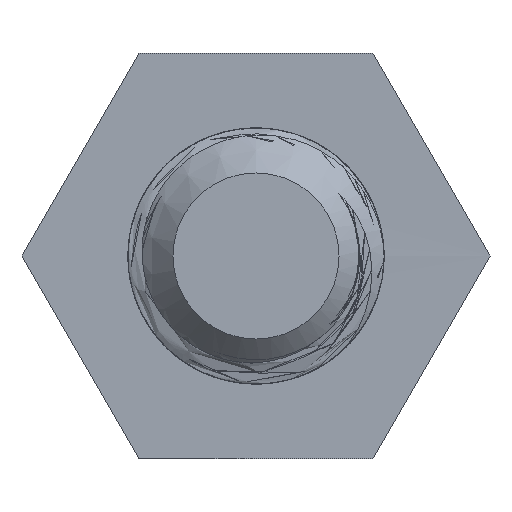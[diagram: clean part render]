
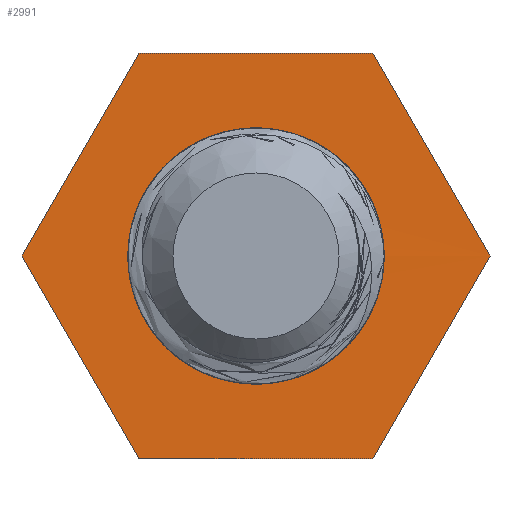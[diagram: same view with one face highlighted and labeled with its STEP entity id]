
A CAD part, front view. The second image highlights one B-rep face of the part: STEP entity #2991.
In plain terms, the highlighted planar face has unit normal (0, -1, 0).
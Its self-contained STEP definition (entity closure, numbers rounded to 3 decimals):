
#18 = CARTESIAN_POINT ( 'NONE',  ( -0.592, 0., -1.303 ) ) ;
#35 = ORIENTED_EDGE ( 'NONE', *, *, #529, .F. ) ;
#52 = CARTESIAN_POINT ( 'NONE',  ( 0.615, 0., 1.292 ) ) ;
#86 = DIRECTION ( 'NONE',  ( -0.5, 0., -0.866 ) ) ;
#95 = CARTESIAN_POINT ( 'NONE',  ( 1.299, 0., -2.25 ) ) ;
#107 = LINE ( 'NONE', #659, #1240 ) ;
#194 = CARTESIAN_POINT ( 'NONE',  ( 1.411, 0., -0.207 ) ) ;
#290 = CARTESIAN_POINT ( 'NONE',  ( 1.068, 0., -0.946 ) ) ;
#322 = CARTESIAN_POINT ( 'NONE',  ( 0.196, 0., -1.418 ) ) ;
#338 = ORIENTED_EDGE ( 'NONE', *, *, #2859, .T. ) ;
#339 = CARTESIAN_POINT ( 'NONE',  ( -0.775, 0., 1.204 ) ) ;
#342 = DIRECTION ( 'NONE',  ( 1., 0., 0. ) ) ;
#378 = CARTESIAN_POINT ( 'NONE',  ( 0., 0., 0. ) ) ;
#397 = VERTEX_POINT ( 'NONE', #680 ) ;
#510 = VECTOR ( 'NONE', #3664, 1000. ) ;
#529 = EDGE_CURVE ( 'NONE', #2973, #3035, #107, .T. ) ;
#572 = VECTOR ( 'NONE', #1546, 1000. ) ;
#575 = CARTESIAN_POINT ( 'NONE',  ( -0.128, 0., -1.426 ) ) ;
#627 = CARTESIAN_POINT ( 'NONE',  ( 1.333, 0., -0.506 ) ) ;
#630 = DIRECTION ( 'NONE',  ( 0.5, 0., -0.866 ) ) ;
#650 = LINE ( 'NONE', #2998, #2545 ) ;
#659 = CARTESIAN_POINT ( 'NONE',  ( 2.598, 0., 0. ) ) ;
#680 = CARTESIAN_POINT ( 'NONE',  ( -1.299, 0., -2.25 ) ) ;
#744 = ORIENTED_EDGE ( 'NONE', *, *, #3382, .F. ) ;
#828 = CARTESIAN_POINT ( 'NONE',  ( -2.598, 0., 0. ) ) ;
#857 = CARTESIAN_POINT ( 'NONE',  ( 1.422, 0., 0.162 ) ) ;
#873 = CARTESIAN_POINT ( 'NONE',  ( -0.287, 0., -1.403 ) ) ;
#879 = CARTESIAN_POINT ( 'NONE',  ( 0.916, 0., -1.089 ) ) ;
#906 = CARTESIAN_POINT ( 'NONE',  ( -1.4, 0., 0.298 ) ) ;
#926 = CARTESIAN_POINT ( 'NONE',  ( 1.21, 0., 0.766 ) ) ;
#945 = CARTESIAN_POINT ( 'NONE',  ( 2.598, 0., 0. ) ) ;
#986 = CARTESIAN_POINT ( 'NONE',  ( 1.422, -0.004, 0. ) ) ;
#989 = AXIS2_PLACEMENT_3D ( 'NONE', #378, #3260, #1840 ) ;
#1114 = CARTESIAN_POINT ( 'NONE',  ( 1.299, 0., 2.25 ) ) ;
#1139 = VERTEX_POINT ( 'NONE', #1114 ) ;
#1141 = CARTESIAN_POINT ( 'NONE',  ( 1.289, 0., 0.623 ) ) ;
#1175 = CARTESIAN_POINT ( 'NONE',  ( 0.151, 0., 1.424 ) ) ;
#1197 = LINE ( 'NONE', #2319, #1393 ) ;
#1209 = CARTESIAN_POINT ( 'NONE',  ( 0.886, 0., 1.124 ) ) ;
#1240 = VECTOR ( 'NONE', #86, 1000. ) ;
#1255 = LINE ( 'NONE', #2733, #2851 ) ;
#1293 = EDGE_LOOP ( 'NONE', ( #3632, #338 ) ) ;
#1393 = VECTOR ( 'NONE', #1769, 1000. ) ;
#1424 = CARTESIAN_POINT ( 'NONE',  ( -0.486, 0., 1.346 ) ) ;
#1443 = CARTESIAN_POINT ( 'NONE',  ( 0.463, 0., 1.355 ) ) ;
#1476 = CARTESIAN_POINT ( 'NONE',  ( -1.278, 0., -0.646 ) ) ;
#1493 = ORIENTED_EDGE ( 'NONE', *, *, #3494, .F. ) ;
#1494 = CARTESIAN_POINT ( 'NONE',  ( -0.737, 0., -1.227 ) ) ;
#1546 = DIRECTION ( 'NONE',  ( -1., 0., 0. ) ) ;
#1553 = VERTEX_POINT ( 'NONE', #879 ) ;
#1589 = ORIENTED_EDGE ( 'NONE', *, *, #1630, .F. ) ;
#1595 = ORIENTED_EDGE ( 'NONE', *, *, #2318, .F. ) ;
#1630 = EDGE_CURVE ( 'NONE', #2443, #2007, #1197, .T. ) ;
#1697 = LINE ( 'NONE', #1980, #510 ) ;
#1764 = CARTESIAN_POINT ( 'NONE',  ( 0.916, 0., -1.089 ) ) ;
#1769 = DIRECTION ( 'NONE',  ( 0.5, 0., 0.866 ) ) ;
#1799 = CARTESIAN_POINT ( 'NONE',  ( -1.357, 0., 0.454 ) ) ;
#1819 = FACE_BOUND ( 'NONE', #1293, .T. ) ;
#1840 = DIRECTION ( 'NONE',  ( 0., 0., 1. ) ) ;
#1871 = CARTESIAN_POINT ( 'NONE',  ( 1.299, 0., -2.25 ) ) ;
#1980 = CARTESIAN_POINT ( 'NONE',  ( -1.299, 0., -2.25 ) ) ;
#2007 = VERTEX_POINT ( 'NONE', #3551 ) ;
#2009 = CARTESIAN_POINT ( 'NONE',  ( 1.422, -0.004, 0. ) ) ;
#2028 = CARTESIAN_POINT ( 'NONE',  ( 1.193, 0., -0.782 ) ) ;
#2045 = CARTESIAN_POINT ( 'NONE',  ( 0.995, 0., -1.022 ) ) ;
#2062 = CARTESIAN_POINT ( 'NONE',  ( -1.222, 0., 0.747 ) ) ;
#2081 = CARTESIAN_POINT ( 'NONE',  ( -1.103, 0., -0.913 ) ) ;
#2131 = LINE ( 'NONE', #1871, #572 ) ;
#2153 = EDGE_CURVE ( 'NONE', #3035, #397, #2131, .T. ) ;
#2296 = CARTESIAN_POINT ( 'NONE',  ( -0.991, 0., -1.033 ) ) ;
#2318 = EDGE_CURVE ( 'NONE', #397, #2443, #1697, .T. ) ;
#2319 = CARTESIAN_POINT ( 'NONE',  ( -2.598, 0., 0. ) ) ;
#2365 = CARTESIAN_POINT ( 'NONE',  ( 1.009, 0., 1.015 ) ) ;
#2443 = VERTEX_POINT ( 'NONE', #828 ) ;
#2481 = ORIENTED_EDGE ( 'NONE', *, *, #2153, .F. ) ;
#2545 = VECTOR ( 'NONE', #630, 1000. ) ;
#2578 = CARTESIAN_POINT ( 'NONE',  ( 1.367, 0., -0.407 ) ) ;
#2595 = CARTESIAN_POINT ( 'NONE',  ( -1.42, 0., -0.185 ) ) ;
#2613 = CARTESIAN_POINT ( 'NONE',  ( 0.794, 0., -1.192 ) ) ;
#2647 = CARTESIAN_POINT ( 'NONE',  ( -0.013, 0., 1.431 ) ) ;
#2713 = EDGE_CURVE ( 'NONE', #2954, #1553, #2742, .T. ) ;
#2733 = CARTESIAN_POINT ( 'NONE',  ( -1.299, 0., 2.25 ) ) ;
#2742 = B_SPLINE_CURVE_WITH_KNOTS ( 'NONE', 3,
 ( #3074, #2788, #194, #2578, #627, #3484, #2028, #290, #2045, #3204 ),
 .UNSPECIFIED., .F., .F.,
 ( 4, 2, 2, 2, 4 ),
 ( 0.25, 0.285, 0.319, 0.354, 0.389 ),
 .UNSPECIFIED. ) ;
#2786 = EDGE_LOOP ( 'NONE', ( #1493, #1589, #1595, #2481, #35, #744 ) ) ;
#2788 = CARTESIAN_POINT ( 'NONE',  ( 1.422, 0., -0.104 ) ) ;
#2851 = VECTOR ( 'NONE', #342, 1000. ) ;
#2859 = EDGE_CURVE ( 'NONE', #1553, #2954, #3062, .T. ) ;
#2885 = CARTESIAN_POINT ( 'NONE',  ( -1.431, 0., -0.021 ) ) ;
#2936 = CARTESIAN_POINT ( 'NONE',  ( -0.904, 0., 1.11 ) ) ;
#2954 = VERTEX_POINT ( 'NONE', #986 ) ;
#2955 = CARTESIAN_POINT ( 'NONE',  ( -1.131, 0., 0.878 ) ) ;
#2973 = VERTEX_POINT ( 'NONE', #945 ) ;
#2974 = FACE_OUTER_BOUND ( 'NONE', #2786, .T. ) ;
#2991 = ADVANCED_FACE ( 'NONE', ( #1819, #2974 ), #3032, .F. ) ;
#2998 = CARTESIAN_POINT ( 'NONE',  ( 1.299, 0., 2.25 ) ) ;
#3032 = PLANE ( 'NONE',  #989 ) ;
#3035 = VERTEX_POINT ( 'NONE', #95 ) ;
#3062 = B_SPLINE_CURVE_WITH_KNOTS ( 'NONE', 3,
 ( #1764, #2613, #3170, #3187, #322, #575, #873, #18, #1494, #2296, #2081, #1476, #3501, #2595, #2885, #906, #1799, #2062, #2955, #2936, #339, #1424, #3735, #2647, #1175, #1443, #52, #1209, #2365, #926, #1141, #3451, #857, #2009 ),
 .UNSPECIFIED., .F., .F.,
 ( 4, 2, 2, 2, 2, 2, 2, 2, 2, 2, 2, 2, 2, 2, 2, 2, 4 ),
 ( 0.389, 0.442, 0.496, 0.55, 0.604, 0.658, 0.712, 0.765, 0.819, 0.873, 0.927, 0.981, 1.035, 1.088, 1.142, 1.196, 1.25 ),
 .UNSPECIFIED. ) ;
#3074 = CARTESIAN_POINT ( 'NONE',  ( 1.422, -0.004, 0. ) ) ;
#3170 = CARTESIAN_POINT ( 'NONE',  ( 0.654, 0., -1.273 ) ) ;
#3187 = CARTESIAN_POINT ( 'NONE',  ( 0.352, 0., -1.388 ) ) ;
#3204 = CARTESIAN_POINT ( 'NONE',  ( 0.916, 0., -1.089 ) ) ;
#3260 = DIRECTION ( 'NONE',  ( 0., 1., 0. ) ) ;
#3382 = EDGE_CURVE ( 'NONE', #1139, #2973, #650, .T. ) ;
#3451 = CARTESIAN_POINT ( 'NONE',  ( 1.396, 0., 0.32 ) ) ;
#3484 = CARTESIAN_POINT ( 'NONE',  ( 1.246, 0., -0.694 ) ) ;
#3494 = EDGE_CURVE ( 'NONE', #2007, #1139, #1255, .T. ) ;
#3501 = CARTESIAN_POINT ( 'NONE',  ( -1.343, 0., -0.494 ) ) ;
#3551 = CARTESIAN_POINT ( 'NONE',  ( -1.299, 0., 2.25 ) ) ;
#3632 = ORIENTED_EDGE ( 'NONE', *, *, #2713, .T. ) ;
#3664 = DIRECTION ( 'NONE',  ( -0.5, 0., 0.866 ) ) ;
#3735 = CARTESIAN_POINT ( 'NONE',  ( -0.331, 0., 1.393 ) ) ;
